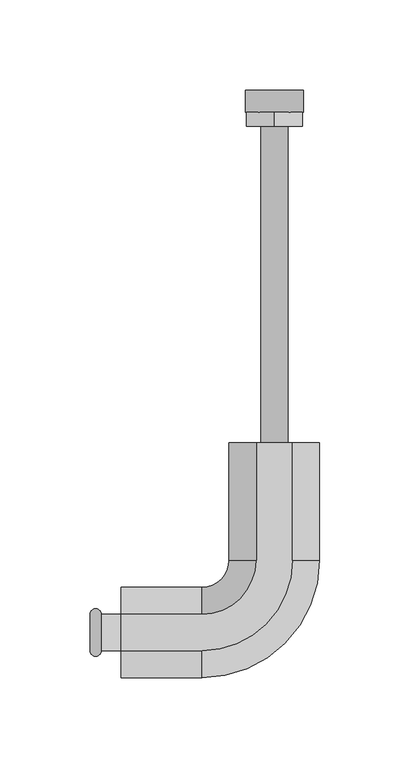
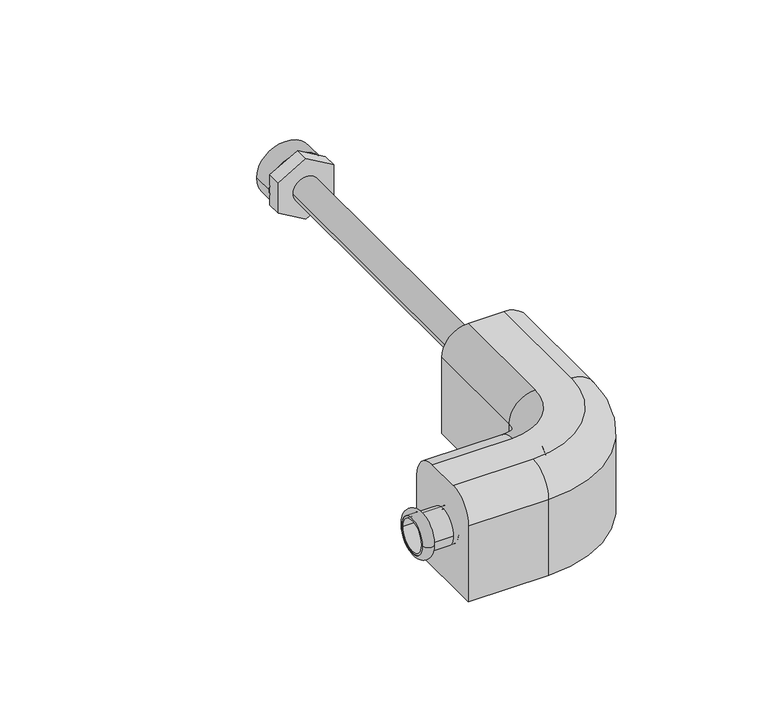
"""IFC4 building model written with IfcOpenShell, lengths in millimetres: pipe fitting geometry."""

from ifc_helpers import new_model, si_unit, point, frame, origin, place, context, project, spatial, polyline, circle_curve, ellipse_curve, trimmed, outline, extrude, source, transform, mapped, element, save
from ifc_brep_helpers import plane_surface, cylinder_surface, revolved_surface, advanced_brep


def pipe_fitting_f131157e(model_context):
    return source(origin(), model_context, "Body", "SolidModel", [
        extrude(outline(polyline([(-8.9489292, -15.5), (-17.8978583, 0.0), (-8.9489292, 15.5), (8.9489292, 15.5), (17.8978583, 0.0), (8.9489292, -15.5), (-8.9489292, -15.5)])), frame((0.0, 280.0, 0.0), z_axis=(0.0, 1.0, 0.0), x_axis=(0.0, 0.0, 1.0)), (0.0, 0.0, 1.0), 8.0),
        advanced_brep(
        [(-16.0, 288.0, 0.0), (16.0, 288.0, 0.0), (0.0, 288.0, 0.0), (-16.0, 300.0, 0.0), (16.0, 300.0, 0.0), (0.0, 300.0, 0.0)],
        [
            (0, 1, circle_curve(frame((0.0, 288.0, 0.0), z_axis=(0.0, -1.0, 0.0), x_axis=(1.0, 0.0, 0.0)), 16.0)),
            (1, 2),
            (2, 0),
            (1, 0, circle_curve(frame((0.0, 288.0, 0.0), z_axis=(0.0, -1.0, 0.0), x_axis=(1.0, 0.0, 0.0)), 16.0)),
            (3, 4, circle_curve(frame((0.0, 300.0, 0.0), z_axis=(0.0, -1.0, 0.0), x_axis=(1.0, 0.0, 0.0)), 16.0)),
            (4, 1),
            (0, 3),
            (4, 3, circle_curve(frame((0.0, 300.0, 0.0), z_axis=(0.0, -1.0, 0.0), x_axis=(1.0, 0.0, 0.0)), 16.0)),
            (5, 4),
            (3, 5),
        ],
        [
            plane_surface(frame((0.0, 288.0, 0.0), z_axis=(0.0, -1.0, 0.0), x_axis=(1.0, 0.0, 0.0))),
            cylinder_surface(frame((0.0, -1712.0, 0.0), z_axis=(0.0, 1.0, 0.0), x_axis=(1.0, 0.0, 0.0)), 16.0),
            plane_surface(frame((0.0, 300.0, 0.0), z_axis=(0.0, 1.0, 0.0), x_axis=(1.0, 0.0, 0.0))),
        ],
        [
            (0, [[1, 2, 3]]),
            (0, [[4, -3, -2]]),
            (1, [[5, 6, -1, 7]]),
            (1, [[8, -7, -4, -6]]),
            (2, [[9, -5, 10]]),
            (2, [[-10, -8, -9]]),
        ],
    ),
        advanced_brep(
        [(-102.0, 10.2, 0.0), (-102.0, -10.2, 0.0), (-95.9987073, -10.2, 0.0), (-95.9987073, 10.2, 0.0)],
        [
            (0, 1, circle_curve(frame((-102.0, 0.0, 0.0), z_axis=(-1.0, 0.0, 0.0), x_axis=(0.0, -1.0, 0.0)), 10.2)),
            (1, 2),
            (2, 3, circle_curve(frame((-95.9987073, 0.0, 0.0), z_axis=(1.0, 0.0, 0.0), x_axis=(0.0, -1.0, 0.0)), 10.2)),
            (3, 0),
            (1, 0, circle_curve(frame((-102.0, 0.0, 0.0), z_axis=(-1.0, 0.0, 0.0), x_axis=(0.0, -1.0, 0.0)), 10.2)),
            (3, 2, circle_curve(frame((-95.9987073, 0.0, 0.0), z_axis=(1.0, 0.0, 0.0), x_axis=(0.0, -1.0, 0.0)), 10.2)),
            (2, 1, circle_curve(frame((-98.9993536, -10.2, 0.0), z_axis=(0.0, 0.0, -1.0), x_axis=(-1.0, 0.0, 0.0)), 3.0006464)),
            (0, 3, circle_curve(frame((-98.9993536, 10.2, 0.0), z_axis=(0.0, 0.0, -1.0), x_axis=(-1.0, 0.0, 0.0)), 3.0006464)),
        ],
        [
            revolved_surface(polyline([(-95.9987073, -10.2, 0.0), (-102.0, -10.2, 0.0)]), (-82.0, 0.0, 0.0), (1.0, 0.0, 0.0)),
            revolved_surface(trimmed(ellipse_curve(frame((-98.9993536, -10.2, 0.0), z_axis=(0.0, 0.0, 1.0), x_axis=(-1.0, 0.0, 0.0)), 3.0006464, 3.0006464), [point((-102.0, -10.2, 0.0))], [point((-95.9987073, -10.2, 0.0))], True, "CARTESIAN"), (-82.0, 0.0, 0.0), (1.0, 0.0, 0.0)),
        ],
        [
            (0, [[1, 2, 3, 4]]),
            (0, [[5, -4, 6, -2]]),
            (1, [[-3, 7, -1, 8]]),
            (1, [[-6, -8, -5, -7]]),
        ],
    ),
        advanced_brep(
        [(-102.0, 9.0, 0.0), (-102.0, -9.0, 0.0), (-81.0, -9.0, 0.0), (-81.0, 9.0, 0.0), (-102.0, 10.2, 0.0), (-102.0, -10.2, 0.0), (-82.0, 10.2, 0.0), (-82.0, -10.2, 0.0)],
        [
            (0, 1, circle_curve(frame((-102.0, 0.0, 0.0), z_axis=(-1.0, 0.0, 0.0), x_axis=(0.0, -1.0, 0.0)), 9.0)),
            (1, 2),
            (2, 3, circle_curve(frame((-81.0, 0.0, 0.0), z_axis=(1.0, 0.0, 0.0), x_axis=(0.0, -1.0, 0.0)), 9.0)),
            (3, 0),
            (1, 0, circle_curve(frame((-102.0, 0.0, 0.0), z_axis=(-1.0, 0.0, 0.0), x_axis=(0.0, -1.0, 0.0)), 9.0)),
            (3, 2, circle_curve(frame((-81.0, 0.0, 0.0), z_axis=(1.0, 0.0, 0.0), x_axis=(0.0, -1.0, 0.0)), 9.0)),
            (4, 5, circle_curve(frame((-102.0, 0.0, 0.0), z_axis=(-1.0, 0.0, 0.0), x_axis=(0.0, -1.0, 0.0)), 10.2)),
            (5, 1),
            (0, 4),
            (5, 4, circle_curve(frame((-102.0, 0.0, 0.0), z_axis=(-1.0, 0.0, 0.0), x_axis=(0.0, -1.0, 0.0)), 10.2)),
            (6, 7, circle_curve(frame((-82.0, 0.0, 0.0), z_axis=(-1.0, 0.0, 0.0), x_axis=(0.0, -1.0, 0.0)), 10.2)),
            (7, 5),
            (4, 6),
            (7, 6, circle_curve(frame((-82.0, 0.0, 0.0), z_axis=(-1.0, 0.0, 0.0), x_axis=(0.0, -1.0, 0.0)), 10.2)),
            (2, 7),
            (6, 3),
        ],
        [
            revolved_surface(polyline([(-81.0, -9.0, 0.0), (-102.0, -9.0, 0.0)]), (-82.0, 0.0, 0.0), (1.0, 0.0, 0.0)),
            plane_surface(frame((-102.0, 0.0, 0.0), z_axis=(-1.0, 0.0, 0.0), x_axis=(0.0, -1.0, 0.0))),
            cylinder_surface(frame((-82.0, 0.0, 0.0), z_axis=(1.0, 0.0, 0.0), x_axis=(0.0, -1.0, 0.0)), 10.2),
            revolved_surface(polyline([(-82.0, -10.2, 0.0), (-81.0, -9.0, 0.0)]), (-82.0, 0.0, 0.0), (1.0, 0.0, 0.0)),
        ],
        [
            (0, [[1, 2, 3, 4]]),
            (0, [[5, -4, 6, -2]]),
            (1, [[7, 8, -1, 9]]),
            (1, [[10, -9, -5, -8]]),
            (2, [[11, 12, -7, 13]]),
            (2, [[14, -13, -10, -12]]),
            (3, [[-3, 15, -11, 16]]),
            (3, [[-6, -16, -14, -15]]),
        ],
    ),
        advanced_brep(
        [(10.0, 105.0, 30.0), (25.0, 105.0, 15.0), (25.0, 105.0, -30.0), (-25.0, 105.0, -30.0), (-25.0, 105.0, 15.0), (-10.0, 105.0, 30.0), (10.0, 40.0, 30.0), (25.0, 40.0, 15.0), (25.0, 40.0, -30.0), (-40.0, -25.0, -30.0), (-85.0, -25.0, -30.0), (-85.0, 25.0, -30.0), (-40.0, 25.0, -30.0), (-25.0, 40.0, -30.0), (-25.0, 40.0, 15.0), (-10.0, 40.0, 30.0), (-40.0, 10.0, 30.0), (-85.0, 10.0, 30.0), (-85.0, -10.0, 30.0), (-40.0, -10.0, 30.0), (-40.0, -25.0, 15.0), (-40.0, 25.0, 15.0), (-85.0, -25.0, 15.0), (-85.0, 25.0, 15.0), (-85.0, -7.5, 0.0), (-85.0, 7.5, 0.0), (-82.0, -7.5, 0.0), (-82.0, 7.5, 0.0)],
        [
            (0, 1, circle_curve(frame((10.0, 105.0, 15.0), z_axis=(0.0, 1.0, 0.0), x_axis=(1.0, 0.0, 0.0)), 15.0)),
            (1, 2),
            (2, 3),
            (3, 4),
            (4, 5, circle_curve(frame((-10.0, 105.0, 15.0), z_axis=(0.0, 1.0, 0.0), x_axis=(1.0, 0.0, 0.0)), 15.0)),
            (5, 0),
            (0, 6),
            (6, 7, circle_curve(frame((10.0, 40.0, 15.0), z_axis=(0.0, 1.0, 0.0), x_axis=(1.0, 0.0, 0.0)), 15.0)),
            (7, 1),
            (7, 8),
            (8, 2),
            (8, 9, circle_curve(frame((-40.0, 40.0, -30.0), z_axis=(0.0, 0.0, -1.0), x_axis=(1.0, 0.0, 0.0)), 65.0)),
            (9, 10),
            (10, 11),
            (11, 12),
            (12, 13, circle_curve(frame((-40.0, 40.0, -30.0), z_axis=(0.0, 0.0, 1.0), x_axis=(1.0, 0.0, 0.0)), 15.0)),
            (13, 3),
            (13, 14),
            (14, 4),
            (14, 15, circle_curve(frame((-10.0, 40.0, 15.0), z_axis=(0.0, 1.0, 0.0), x_axis=(1.0, 0.0, 0.0)), 15.0)),
            (15, 5),
            (15, 16, circle_curve(frame((-40.0, 40.0, 30.0), z_axis=(0.0, 0.0, -1.0), x_axis=(1.0, 0.0, 0.0)), 30.0)),
            (16, 17),
            (17, 18),
            (18, 19),
            (19, 6, circle_curve(frame((-40.0, 40.0, 30.0), z_axis=(0.0, 0.0, 1.0), x_axis=(1.0, 0.0, 0.0)), 50.0)),
            (19, 20, circle_curve(frame((-40.0, -10.0, 15.0), z_axis=(1.0, 0.0, 0.0), x_axis=(0.0, -1.0, 0.0)), 15.0)),
            (20, 7, circle_curve(frame((-40.0, 40.0, 15.0), z_axis=(0.0, 0.0, 1.0), x_axis=(1.0, 0.0, 0.0)), 65.0)),
            (20, 9),
            (12, 21),
            (21, 14, circle_curve(frame((-40.0, 40.0, 15.0), z_axis=(0.0, 0.0, 1.0), x_axis=(1.0, 0.0, 0.0)), 15.0)),
            (21, 16, circle_curve(frame((-40.0, 10.0, 15.0), z_axis=(1.0, 0.0, 0.0), x_axis=(0.0, -1.0, 0.0)), 15.0)),
            (10, 22),
            (22, 18, circle_curve(frame((-85.0, -10.0, 15.0), z_axis=(-1.0, 0.0, 0.0), x_axis=(0.0, -1.0, 0.0)), 15.0)),
            (17, 23, circle_curve(frame((-85.0, 10.0, 15.0), z_axis=(-1.0, 0.0, 0.0), x_axis=(0.0, -1.0, 0.0)), 15.0)),
            (23, 11),
            (24, 25, circle_curve(frame((-85.0, 0.0, 0.0), z_axis=(1.0, 0.0, 0.0), x_axis=(0.0, 1.0, 0.0)), 7.5)),
            (25, 24, circle_curve(frame((-85.0, 0.0, 0.0), z_axis=(1.0, 0.0, 0.0), x_axis=(0.0, 1.0, 0.0)), 7.5)),
            (22, 20),
            (23, 21),
            (26, 27, circle_curve(frame((-82.0, 0.0, 0.0), z_axis=(-1.0, 0.0, 0.0), x_axis=(0.0, 1.0, 0.0)), 7.5)),
            (27, 26, circle_curve(frame((-82.0, 0.0, 0.0), z_axis=(-1.0, 0.0, 0.0), x_axis=(0.0, 1.0, 0.0)), 7.5)),
            (27, 25),
            (24, 26),
        ],
        [
            plane_surface(frame((0.0, 105.0, 0.0), z_axis=(0.0, 1.0, 0.0), x_axis=(0.0, 0.0, 1.0))),
            cylinder_surface(frame((10.0, 105.0, 15.0), z_axis=(0.0, 1.0, 0.0), x_axis=(1.0, 0.0, 0.0)), 15.0),
            plane_surface(frame((25.0, 105.0, 15.0), z_axis=(1.0, 0.0, 0.0), x_axis=(0.0, -1.0, 0.0))),
            plane_surface(frame((25.0, 105.0, -30.0), z_axis=(0.0, 0.0, -1.0), x_axis=(0.0, -1.0, 0.0))),
            plane_surface(frame((-25.0, 105.0, -30.0), z_axis=(-1.0, 0.0, 0.0), x_axis=(0.0, -1.0, 0.0))),
            cylinder_surface(frame((-10.0, 105.0, 15.0), z_axis=(0.0, 1.0, 0.0), x_axis=(1.0, 0.0, 0.0)), 15.0),
            plane_surface(frame((-10.0, 105.0, 30.0), z_axis=(0.0, 0.0, 1.0), x_axis=(0.0, -1.0, 0.0))),
            revolved_surface(trimmed(ellipse_curve(frame((10.0, 40.0, 15.0), z_axis=(0.0, 1.0, 0.0), x_axis=(1.0, 0.0, 0.0)), 15.0, 15.0), [point((10.0, 40.0, 30.0))], [point((25.0, 40.0, 15.0))], True, "CARTESIAN"), (-40.0, 40.0, 0.0), (0.0, 0.0, -1.0)),
            cylinder_surface(frame((-40.0, 40.0, 0.0), z_axis=(0.0, 0.0, -1.0), x_axis=(1.0, 0.0, 0.0)), 65.0),
            revolved_surface(polyline([(-25.0, 40.0, -30.0), (-25.0, 40.0, 15.0)]), (-40.0, 40.0, 0.0), (0.0, 0.0, -1.0)),
            revolved_surface(trimmed(ellipse_curve(frame((-10.0, 40.0, 15.0), z_axis=(0.0, 1.0, 0.0), x_axis=(1.0, 0.0, 0.0)), 15.0, 15.0), [point((-25.0, 40.0, 15.0))], [point((-10.0, 40.0, 30.0))], True, "CARTESIAN"), (-40.0, 40.0, 0.0), (0.0, 0.0, -1.0)),
            plane_surface(frame((-85.0, 0.0, 0.0), z_axis=(-1.0, 0.0, 0.0), x_axis=(0.0, 0.0, 1.0))),
            cylinder_surface(frame((-40.0, -10.0, 15.0), z_axis=(1.0, 0.0, 0.0), x_axis=(0.0, -1.0, 0.0)), 15.0),
            plane_surface(frame((-40.0, -25.0, 15.0), z_axis=(0.0, -1.0, 0.0), x_axis=(-1.0, 0.0, 0.0))),
            plane_surface(frame((-40.0, 25.0, -30.0), z_axis=(0.0, 1.0, 0.0), x_axis=(-1.0, 0.0, 0.0))),
            cylinder_surface(frame((-40.0, 10.0, 15.0), z_axis=(1.0, 0.0, 0.0), x_axis=(0.0, -1.0, 0.0)), 15.0),
            plane_surface(frame((-82.0, 7.5, 0.0), z_axis=(-1.0, 0.0, 0.0), x_axis=(0.0, 0.0, 1.0))),
            revolved_surface(polyline([(-82.0, 7.5, 0.0), (-85.0, 7.5, 0.0)]), (-102.0, 0.0, 0.0), (1.0, 0.0, 0.0)),
        ],
        [
            (0, [[1, 2, 3, 4, 5, 6]]),
            (1, [[-1, 7, 8, 9]]),
            (2, [[-2, -9, 10, 11]]),
            (3, [[-3, -11, 12, 13, 14, 15, 16, 17]]),
            (4, [[-4, -17, 18, 19]]),
            (5, [[-5, -19, 20, 21]]),
            (6, [[-6, -21, 22, 23, 24, 25, 26, -7]]),
            (7, [[-8, -26, 27, 28]]),
            (8, [[-10, -28, 29, -12]]),
            (9, [[-16, 30, 31, -18]]),
            (10, [[-20, -31, 32, -22]]),
            (11, [[-14, 33, 34, -24, 35, 36], [37, 38]]),
            (12, [[-25, -34, 39, -27]]),
            (13, [[-13, -29, -39, -33]]),
            (14, [[-15, -36, 40, -30]]),
            (15, [[-23, -32, -40, -35]]),
            (16, [[41, 42]]),
            (17, [[-42, 43, -37, 44]]),
            (17, [[-41, -44, -38, -43]]),
        ],
    ),
        advanced_brep(
        [(-7.5, 280.0, 0.0), (7.5, 280.0, 0.0), (-7.5, 45.0, 0.0), (7.5, 45.0, 0.0), (-45.0, -7.5, 0.0), (-45.0, 7.5, 0.0), (-82.0, 7.5, 0.0), (-82.0, -7.5, 0.0)],
        [
            (0, 1, circle_curve(frame((0.0, 280.0, 0.0), z_axis=(0.0, 1.0, 0.0), x_axis=(1.0, 0.0, 0.0)), 7.5)),
            (1, 0, circle_curve(frame((0.0, 280.0, 0.0), z_axis=(0.0, 1.0, 0.0), x_axis=(1.0, 0.0, 0.0)), 7.5)),
            (0, 2),
            (2, 3, circle_curve(frame((0.0, 45.0, 0.0), z_axis=(0.0, 1.0, 0.0), x_axis=(1.0, 0.0, 0.0)), 7.5)),
            (3, 1),
            (3, 2, circle_curve(frame((0.0, 45.0, 0.0), z_axis=(0.0, 1.0, 0.0), x_axis=(1.0, 0.0, 0.0)), 7.5)),
            (4, 3, circle_curve(frame((-45.0, 45.0, 0.0), z_axis=(0.0, 0.0, 1.0), x_axis=(1.0, 0.0, 0.0)), 52.5)),
            (2, 5, circle_curve(frame((-45.0, 45.0, 0.0), z_axis=(0.0, 0.0, -1.0), x_axis=(1.0, 0.0, 0.0)), 37.5)),
            (5, 4, circle_curve(frame((-45.0, 0.0, 0.0), z_axis=(1.0, 0.0, 0.0), x_axis=(0.0, -1.0, 0.0)), 7.5)),
            (4, 5, circle_curve(frame((-45.0, 0.0, 0.0), z_axis=(1.0, 0.0, 0.0), x_axis=(0.0, -1.0, 0.0)), 7.5)),
            (6, 7, circle_curve(frame((-82.0, 0.0, 0.0), z_axis=(-1.0, 0.0, 0.0), x_axis=(0.0, -1.0, 0.0)), 7.5)),
            (7, 6, circle_curve(frame((-82.0, 0.0, 0.0), z_axis=(-1.0, 0.0, 0.0), x_axis=(0.0, -1.0, 0.0)), 7.5)),
            (5, 6),
            (7, 4),
        ],
        [
            plane_surface(frame((0.0, 280.0, 0.0), z_axis=(0.0, 1.0, 0.0), x_axis=(0.0, 0.0, 1.0))),
            cylinder_surface(frame((0.0, 280.0, 0.0), z_axis=(0.0, 1.0, 0.0), x_axis=(1.0, 0.0, 0.0)), 7.5),
            revolved_surface(trimmed(ellipse_curve(frame((0.0, 45.0, 0.0), z_axis=(0.0, 1.0, 0.0), x_axis=(1.0, 0.0, 0.0)), 7.5, 7.5), [point((-7.5, 45.0, 0.0))], [point((7.5, 45.0, 0.0))], True, "CARTESIAN"), (-45.0, 45.0, 0.0), (0.0, 0.0, -1.0)),
            revolved_surface(trimmed(ellipse_curve(frame((0.0, 45.0, 0.0), z_axis=(0.0, 1.0, 0.0), x_axis=(1.0, 0.0, 0.0)), 7.5, 7.5), [point((7.5, 45.0, 0.0))], [point((-7.5, 45.0, 0.0))], True, "CARTESIAN"), (-45.0, 45.0, 0.0), (0.0, 0.0, -1.0)),
            plane_surface(frame((-82.0, 0.0, 0.0), z_axis=(-1.0, 0.0, 0.0), x_axis=(0.0, 0.0, 1.0))),
            cylinder_surface(frame((-45.0, 0.0, 0.0), z_axis=(1.0, 0.0, 0.0), x_axis=(0.0, -1.0, 0.0)), 7.5),
        ],
        [
            (0, [[1, 2]]),
            (1, [[-1, 3, 4, 5]]),
            (1, [[-2, -5, 6, -3]]),
            (2, [[7, -4, 8, 9]]),
            (3, [[-8, -6, -7, 10]]),
            (4, [[11, 12]]),
            (5, [[-9, 13, -12, 14]]),
            (5, [[-10, -14, -11, -13]]),
        ],
    ),
    ])


if __name__ == "__main__":
    model = new_model("IFC4")
    model_context = context("Model", 3, world=origin())
    ifc_project = project(units=[si_unit("LENGTHUNIT", "METRE", prefix="MILLI")], contexts=[model_context])
    site = spatial("IfcSite", under=ifc_project)
    building = spatial("IfcBuilding", under=site)
    placement = place(None, origin())
    pipe_fitting_shape = pipe_fitting_f131157e(model_context)
    element("IfcPipeFitting", 1, ObjectType="NLRS_50_PIF_UN_Geberit Mapress radiatoraansluiting 90° met isolatiebox en schroefaansluiting voor Euroconus_PRO_1079240 : DN12-12-G3/4\" / d15-15-G3/4\" - OD", at=placement, inside=building, context=model_context, shape_type="MappedRepresentation", body=[
        mapped(pipe_fitting_shape, transform((0.0, 0.0, 0.0), x_axis=(1.0, 0.0, 0.0), y_axis=(0.0, 1.0, 0.0), z_axis=(0.0, 0.0, 1.0))),
    ])
    save(model, "model.ifc")
